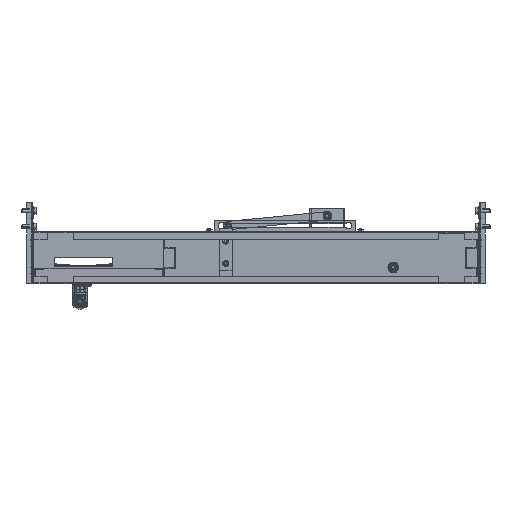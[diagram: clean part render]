
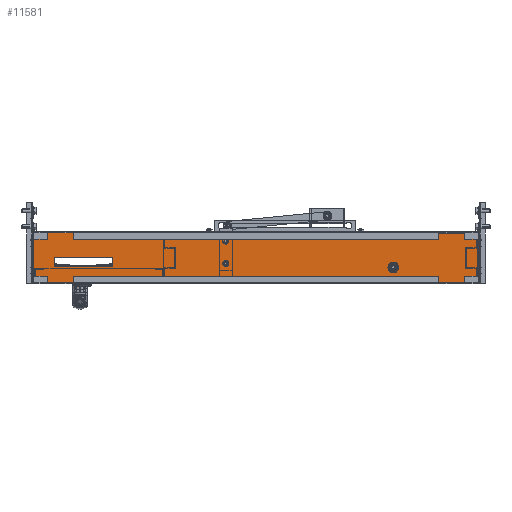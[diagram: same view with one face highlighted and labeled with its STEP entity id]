
A CAD part, front view. The second image highlights one B-rep face of the part: STEP entity #11581.
In plain terms, the highlighted planar face has unit normal (0, -1, 0).
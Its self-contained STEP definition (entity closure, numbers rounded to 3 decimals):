
#9673 = VERTEX_POINT('',#9674);
#9674 = CARTESIAN_POINT('',(-47.,-1.5,-6.9));
#9692 = VERTEX_POINT('',#9693);
#9693 = CARTESIAN_POINT('',(-47.,-1.5,-11.1));
#9699 = EDGE_CURVE('',#9673,#9692,#9700,.T.);
#9700 = CIRCLE('',#9701,2.1);
#9701 = AXIS2_PLACEMENT_3D('',#9702,#9703,#9704);
#9702 = CARTESIAN_POINT('',(-47.,-1.5,-9.));
#9703 = DIRECTION('',(0.,-1.,0.));
#9704 = DIRECTION('',(0.,0.,-1.));
#9715 = VERTEX_POINT('',#9716);
#9716 = CARTESIAN_POINT('',(-47.,-1.5,28.1));
#9734 = VERTEX_POINT('',#9735);
#9735 = CARTESIAN_POINT('',(-47.,-1.5,23.9));
#9741 = EDGE_CURVE('',#9715,#9734,#9742,.T.);
#9742 = CIRCLE('',#9743,2.1);
#9743 = AXIS2_PLACEMENT_3D('',#9744,#9745,#9746);
#9744 = CARTESIAN_POINT('',(-47.,-1.5,26.));
#9745 = DIRECTION('',(0.,-1.,0.));
#9746 = DIRECTION('',(0.,0.,-1.));
#9757 = VERTEX_POINT('',#9758);
#9758 = CARTESIAN_POINT('',(-222.5,-1.5,-13.6));
#9766 = EDGE_CURVE('',#9757,#9767,#9769,.T.);
#9767 = VERTEX_POINT('',#9768);
#9768 = CARTESIAN_POINT('',(-222.,-1.5,-13.6));
#9769 = LINE('',#9770,#9771);
#9770 = CARTESIAN_POINT('',(0.,-1.5,-13.6));
#9771 = VECTOR('',#9772,1.);
#9772 = DIRECTION('',(1.,0.,0.));
#11143 = VERTEX_POINT('',#11144);
#11144 = CARTESIAN_POINT('',(344.9,-1.5,-38.5));
#11150 = EDGE_CURVE('',#11151,#11143,#11153,.T.);
#11151 = VERTEX_POINT('',#11152);
#11152 = CARTESIAN_POINT('',(-344.9,-1.5,-38.5));
#11153 = LINE('',#11154,#11155);
#11154 = CARTESIAN_POINT('',(0.,-1.5,-38.5));
#11155 = VECTOR('',#11156,1.);
#11156 = DIRECTION('',(1.,0.,0.));
#11399 = VERTEX_POINT('',#11400);
#11400 = CARTESIAN_POINT('',(-344.9,-1.5,38.5));
#11406 = EDGE_CURVE('',#11407,#11399,#11409,.T.);
#11407 = VERTEX_POINT('',#11408);
#11408 = CARTESIAN_POINT('',(344.9,-1.5,38.5));
#11409 = LINE('',#11410,#11411);
#11410 = CARTESIAN_POINT('',(0.,-1.5,38.5));
#11411 = VECTOR('',#11412,1.);
#11412 = DIRECTION('',(-1.,0.,0.));
#11498 = EDGE_CURVE('',#11499,#11501,#11503,.T.);
#11499 = VERTEX_POINT('',#11500);
#11500 = CARTESIAN_POINT('',(-344.9,-1.5,-37.9));
#11501 = VERTEX_POINT('',#11502);
#11502 = CARTESIAN_POINT('',(-345.5,-1.5,-37.9));
#11503 = LINE('',#11504,#11505);
#11504 = CARTESIAN_POINT('',(0.,-1.5,-37.9));
#11505 = VECTOR('',#11506,1.);
#11506 = DIRECTION('',(-1.,-0.,-0.));
#11581 = ADVANCED_FACE('',(#11582,#11592,#11602,#11652,#11709),#11780,
  .T.);
#11582 = FACE_BOUND('',#11583,.T.);
#11583 = EDGE_LOOP('',(#11584,#11585));
#11584 = ORIENTED_EDGE('',*,*,#9699,.F.);
#11585 = ORIENTED_EDGE('',*,*,#11586,.F.);
#11586 = EDGE_CURVE('',#9692,#9673,#11587,.T.);
#11587 = CIRCLE('',#11588,2.1);
#11588 = AXIS2_PLACEMENT_3D('',#11589,#11590,#11591);
#11589 = CARTESIAN_POINT('',(-47.,-1.5,-9.));
#11590 = DIRECTION('',(0.,-1.,0.));
#11591 = DIRECTION('',(0.,0.,-1.));
#11592 = FACE_BOUND('',#11593,.T.);
#11593 = EDGE_LOOP('',(#11594,#11595));
#11594 = ORIENTED_EDGE('',*,*,#9741,.F.);
#11595 = ORIENTED_EDGE('',*,*,#11596,.F.);
#11596 = EDGE_CURVE('',#9734,#9715,#11597,.T.);
#11597 = CIRCLE('',#11598,2.1);
#11598 = AXIS2_PLACEMENT_3D('',#11599,#11600,#11601);
#11599 = CARTESIAN_POINT('',(-47.,-1.5,26.));
#11600 = DIRECTION('',(0.,-1.,0.));
#11601 = DIRECTION('',(0.,0.,-1.));
#11602 = FACE_BOUND('',#11603,.T.);
#11603 = EDGE_LOOP('',(#11604,#11614,#11622,#11630,#11638,#11646));
#11604 = ORIENTED_EDGE('',*,*,#11605,.F.);
#11605 = EDGE_CURVE('',#11606,#11608,#11610,.T.);
#11606 = VERTEX_POINT('',#11607);
#11607 = CARTESIAN_POINT('',(216.32,-1.5,-9.25));
#11608 = VERTEX_POINT('',#11609);
#11609 = CARTESIAN_POINT('',(209.68,-1.5,-9.25));
#11610 = LINE('',#11611,#11612);
#11611 = CARTESIAN_POINT('',(0.,-1.5,-9.25));
#11612 = VECTOR('',#11613,1.);
#11613 = DIRECTION('',(-1.,0.,0.));
#11614 = ORIENTED_EDGE('',*,*,#11615,.F.);
#11615 = EDGE_CURVE('',#11616,#11606,#11618,.T.);
#11616 = VERTEX_POINT('',#11617);
#11617 = CARTESIAN_POINT('',(219.64,-1.5,-15.));
#11618 = LINE('',#11619,#11620);
#11619 = CARTESIAN_POINT('',(158.234,-1.5,91.357));
#11620 = VECTOR('',#11621,1.);
#11621 = DIRECTION('',(-0.5,0.,0.866));
#11622 = ORIENTED_EDGE('',*,*,#11623,.F.);
#11623 = EDGE_CURVE('',#11624,#11616,#11626,.T.);
#11624 = VERTEX_POINT('',#11625);
#11625 = CARTESIAN_POINT('',(216.32,-1.5,-20.75));
#11626 = LINE('',#11627,#11628);
#11627 = CARTESIAN_POINT('',(171.225,-1.5,-98.857));
#11628 = VECTOR('',#11629,1.);
#11629 = DIRECTION('',(0.5,0.,0.866));
#11630 = ORIENTED_EDGE('',*,*,#11631,.F.);
#11631 = EDGE_CURVE('',#11632,#11624,#11634,.T.);
#11632 = VERTEX_POINT('',#11633);
#11633 = CARTESIAN_POINT('',(209.68,-1.5,-20.75));
#11634 = LINE('',#11635,#11636);
#11635 = CARTESIAN_POINT('',(0.,-1.5,-20.75));
#11636 = VECTOR('',#11637,1.);
#11637 = DIRECTION('',(1.,0.,0.));
#11638 = ORIENTED_EDGE('',*,*,#11639,.F.);
#11639 = EDGE_CURVE('',#11640,#11632,#11642,.T.);
#11640 = VERTEX_POINT('',#11641);
#11641 = CARTESIAN_POINT('',(206.36,-1.5,-15.));
#11642 = LINE('',#11643,#11644);
#11643 = CARTESIAN_POINT('',(148.275,-1.5,85.607));
#11644 = VECTOR('',#11645,1.);
#11645 = DIRECTION('',(0.5,0.,-0.866));
#11646 = ORIENTED_EDGE('',*,*,#11647,.F.);
#11647 = EDGE_CURVE('',#11608,#11640,#11648,.T.);
#11648 = LINE('',#11649,#11650);
#11649 = CARTESIAN_POINT('',(161.266,-1.5,-93.107));
#11650 = VECTOR('',#11651,1.);
#11651 = DIRECTION('',(-0.5,0.,-0.866));
#11652 = FACE_BOUND('',#11653,.T.);
#11653 = EDGE_LOOP('',(#11654,#11664,#11672,#11678,#11679,#11687,#11695,
    #11703));
#11654 = ORIENTED_EDGE('',*,*,#11655,.F.);
#11655 = EDGE_CURVE('',#11656,#11658,#11660,.T.);
#11656 = VERTEX_POINT('',#11657);
#11657 = CARTESIAN_POINT('',(-312.,-1.5,0.4));
#11658 = VERTEX_POINT('',#11659);
#11659 = CARTESIAN_POINT('',(-312.,-1.5,-13.6));
#11660 = LINE('',#11661,#11662);
#11661 = CARTESIAN_POINT('',(-312.,-1.5,0.));
#11662 = VECTOR('',#11663,1.);
#11663 = DIRECTION('',(0.,0.,-1.));
#11664 = ORIENTED_EDGE('',*,*,#11665,.F.);
#11665 = EDGE_CURVE('',#11666,#11656,#11668,.T.);
#11666 = VERTEX_POINT('',#11667);
#11667 = CARTESIAN_POINT('',(-222.,-1.5,0.4));
#11668 = LINE('',#11669,#11670);
#11669 = CARTESIAN_POINT('',(0.,-1.5,0.4));
#11670 = VECTOR('',#11671,1.);
#11671 = DIRECTION('',(-1.,0.,0.));
#11672 = ORIENTED_EDGE('',*,*,#11673,.F.);
#11673 = EDGE_CURVE('',#9767,#11666,#11674,.T.);
#11674 = LINE('',#11675,#11676);
#11675 = CARTESIAN_POINT('',(-222.,-1.5,0.));
#11676 = VECTOR('',#11677,1.);
#11677 = DIRECTION('',(0.,0.,1.));
#11678 = ORIENTED_EDGE('',*,*,#9766,.F.);
#11679 = ORIENTED_EDGE('',*,*,#11680,.T.);
#11680 = EDGE_CURVE('',#9757,#11681,#11683,.T.);
#11681 = VERTEX_POINT('',#11682);
#11682 = CARTESIAN_POINT('',(-222.5,-1.5,-13.));
#11683 = LINE('',#11684,#11685);
#11684 = CARTESIAN_POINT('',(-222.5,-1.5,-13.6));
#11685 = VECTOR('',#11686,1.);
#11686 = DIRECTION('',(-0.,-0.,1.));
#11687 = ORIENTED_EDGE('',*,*,#11688,.T.);
#11688 = EDGE_CURVE('',#11681,#11689,#11691,.T.);
#11689 = VERTEX_POINT('',#11690);
#11690 = CARTESIAN_POINT('',(-311.5,-1.5,-13.));
#11691 = LINE('',#11692,#11693);
#11692 = CARTESIAN_POINT('',(0.,-1.5,-13.));
#11693 = VECTOR('',#11694,1.);
#11694 = DIRECTION('',(-1.,-0.,0.));
#11695 = ORIENTED_EDGE('',*,*,#11696,.F.);
#11696 = EDGE_CURVE('',#11697,#11689,#11699,.T.);
#11697 = VERTEX_POINT('',#11698);
#11698 = CARTESIAN_POINT('',(-311.5,-1.5,-13.6));
#11699 = LINE('',#11700,#11701);
#11700 = CARTESIAN_POINT('',(-311.5,-1.5,0.));
#11701 = VECTOR('',#11702,1.);
#11702 = DIRECTION('',(-0.,0.,1.));
#11703 = ORIENTED_EDGE('',*,*,#11704,.F.);
#11704 = EDGE_CURVE('',#11658,#11697,#11705,.T.);
#11705 = LINE('',#11706,#11707);
#11706 = CARTESIAN_POINT('',(0.,-1.5,-13.6));
#11707 = VECTOR('',#11708,1.);
#11708 = DIRECTION('',(1.,0.,0.));
#11709 = FACE_BOUND('',#11710,.T.);
#11710 = EDGE_LOOP('',(#11711,#11721,#11727,#11728,#11736,#11744,#11750,
    #11751,#11757,#11758,#11766,#11774));
#11711 = ORIENTED_EDGE('',*,*,#11712,.F.);
#11712 = EDGE_CURVE('',#11713,#11715,#11717,.T.);
#11713 = VERTEX_POINT('',#11714);
#11714 = CARTESIAN_POINT('',(344.9,-1.5,37.9));
#11715 = VERTEX_POINT('',#11716);
#11716 = CARTESIAN_POINT('',(345.5,-1.5,37.9));
#11717 = LINE('',#11718,#11719);
#11718 = CARTESIAN_POINT('',(0.,-1.5,37.9));
#11719 = VECTOR('',#11720,1.);
#11720 = DIRECTION('',(1.,-0.,-0.));
#11721 = ORIENTED_EDGE('',*,*,#11722,.T.);
#11722 = EDGE_CURVE('',#11713,#11407,#11723,.T.);
#11723 = LINE('',#11724,#11725);
#11724 = CARTESIAN_POINT('',(344.9,-1.5,37.9));
#11725 = VECTOR('',#11726,1.);
#11726 = DIRECTION('',(-0.,-0.,1.));
#11727 = ORIENTED_EDGE('',*,*,#11406,.T.);
#11728 = ORIENTED_EDGE('',*,*,#11729,.F.);
#11729 = EDGE_CURVE('',#11730,#11399,#11732,.T.);
#11730 = VERTEX_POINT('',#11731);
#11731 = CARTESIAN_POINT('',(-344.9,-1.5,37.9));
#11732 = LINE('',#11733,#11734);
#11733 = CARTESIAN_POINT('',(-344.9,-1.5,0.));
#11734 = VECTOR('',#11735,1.);
#11735 = DIRECTION('',(-0.,0.,1.));
#11736 = ORIENTED_EDGE('',*,*,#11737,.T.);
#11737 = EDGE_CURVE('',#11730,#11738,#11740,.T.);
#11738 = VERTEX_POINT('',#11739);
#11739 = CARTESIAN_POINT('',(-345.5,-1.5,37.9));
#11740 = LINE('',#11741,#11742);
#11741 = CARTESIAN_POINT('',(-344.9,-1.5,37.9));
#11742 = VECTOR('',#11743,1.);
#11743 = DIRECTION('',(-1.,-0.,-0.));
#11744 = ORIENTED_EDGE('',*,*,#11745,.F.);
#11745 = EDGE_CURVE('',#11501,#11738,#11746,.T.);
#11746 = LINE('',#11747,#11748);
#11747 = CARTESIAN_POINT('',(-345.5,-1.5,0.));
#11748 = VECTOR('',#11749,1.);
#11749 = DIRECTION('',(0.,0.,1.));
#11750 = ORIENTED_EDGE('',*,*,#11498,.F.);
#11751 = ORIENTED_EDGE('',*,*,#11752,.T.);
#11752 = EDGE_CURVE('',#11499,#11151,#11753,.T.);
#11753 = LINE('',#11754,#11755);
#11754 = CARTESIAN_POINT('',(-344.9,-1.5,-37.9));
#11755 = VECTOR('',#11756,1.);
#11756 = DIRECTION('',(-0.,-0.,-1.));
#11757 = ORIENTED_EDGE('',*,*,#11150,.T.);
#11758 = ORIENTED_EDGE('',*,*,#11759,.F.);
#11759 = EDGE_CURVE('',#11760,#11143,#11762,.T.);
#11760 = VERTEX_POINT('',#11761);
#11761 = CARTESIAN_POINT('',(344.9,-1.5,-37.9));
#11762 = LINE('',#11763,#11764);
#11763 = CARTESIAN_POINT('',(344.9,-1.5,0.));
#11764 = VECTOR('',#11765,1.);
#11765 = DIRECTION('',(0.,0.,-1.));
#11766 = ORIENTED_EDGE('',*,*,#11767,.T.);
#11767 = EDGE_CURVE('',#11760,#11768,#11770,.T.);
#11768 = VERTEX_POINT('',#11769);
#11769 = CARTESIAN_POINT('',(345.5,-1.5,-37.9));
#11770 = LINE('',#11771,#11772);
#11771 = CARTESIAN_POINT('',(344.9,-1.5,-37.9));
#11772 = VECTOR('',#11773,1.);
#11773 = DIRECTION('',(1.,-0.,-0.));
#11774 = ORIENTED_EDGE('',*,*,#11775,.T.);
#11775 = EDGE_CURVE('',#11768,#11715,#11776,.T.);
#11776 = LINE('',#11777,#11778);
#11777 = CARTESIAN_POINT('',(345.5,-1.5,0.));
#11778 = VECTOR('',#11779,1.);
#11779 = DIRECTION('',(-0.,-0.,1.));
#11780 = PLANE('',#11781);
#11781 = AXIS2_PLACEMENT_3D('',#11782,#11783,#11784);
#11782 = CARTESIAN_POINT('',(0.,-1.5,0.));
#11783 = DIRECTION('',(0.,-1.,0.));
#11784 = DIRECTION('',(0.,-0.,-1.));
